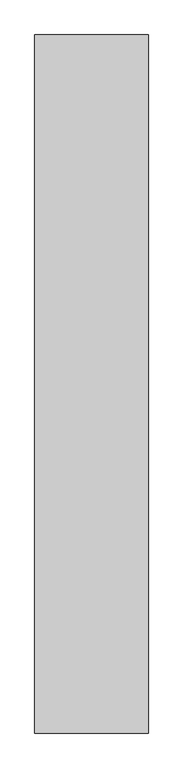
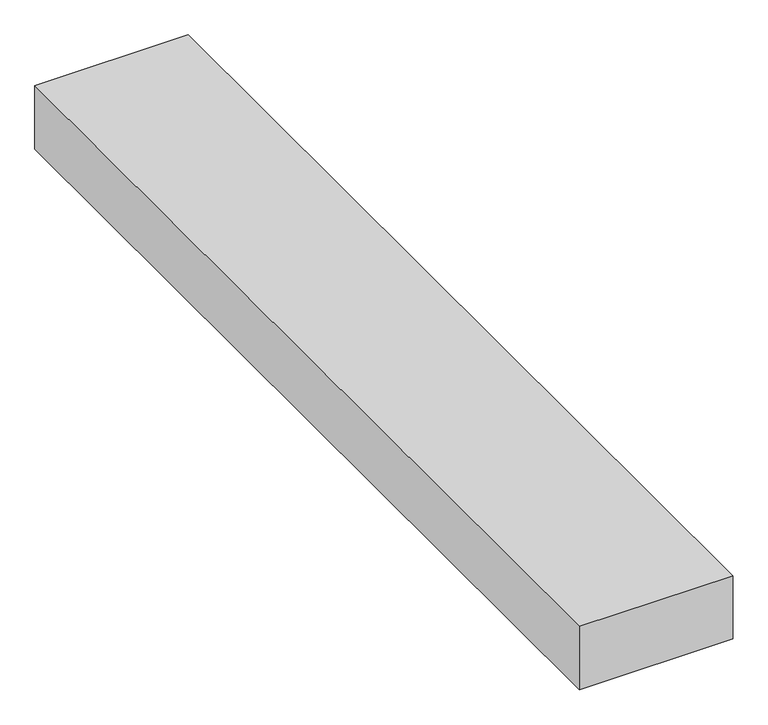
"""IFC4 building model written with IfcOpenShell, lengths in millimetres: furniture geometry, Muebles de obra 1 : Muebles de obra 1."""

from ifc_helpers import new_model, si_unit, frame, origin, place, context, project, spatial, polyline, outline, extrude, source, transform, mapped, element, save


def furniture_4d22b9ae(model_context):
    return source(origin(), model_context, "Body", "SweptSolid", [
        extrude(outline(polyline([(12476.5346352, 4461.9853574), (12476.5346352, 8241.9853574), (13091.5346352, 8241.9853574), (13091.5346352, 4461.9853574), (12476.5346352, 4461.9853574)])), frame((0.0, 0.0, 2601.5), z_axis=(0.0, 0.0, 1.0), x_axis=(1.0, 0.0, 0.0)), (0.0, 0.0, 1.0), 268.5),
    ])


if __name__ == "__main__":
    model = new_model("IFC4")
    model_context = context("Model", 3, world=origin())
    ifc_project = project(units=[si_unit("LENGTHUNIT", "METRE", prefix="MILLI")], contexts=[model_context])
    site = spatial("IfcSite", under=ifc_project)
    building = spatial("IfcBuilding", under=site)
    placement = place(None, origin())
    furniture_shape = furniture_4d22b9ae(model_context)
    element("IfcFurniture", 1, ObjectType="Muebles de obra 1 : Muebles de obra 1", at=placement, inside=building, context=model_context, shape_type="MappedRepresentation", body=[
        mapped(furniture_shape, transform((0.0, 0.0, 0.0), x_axis=(1.0, 0.0, 0.0), y_axis=(0.0, 1.0, 0.0), z_axis=(0.0, 0.0, 1.0))),
    ])
    save(model, "model.ifc")
